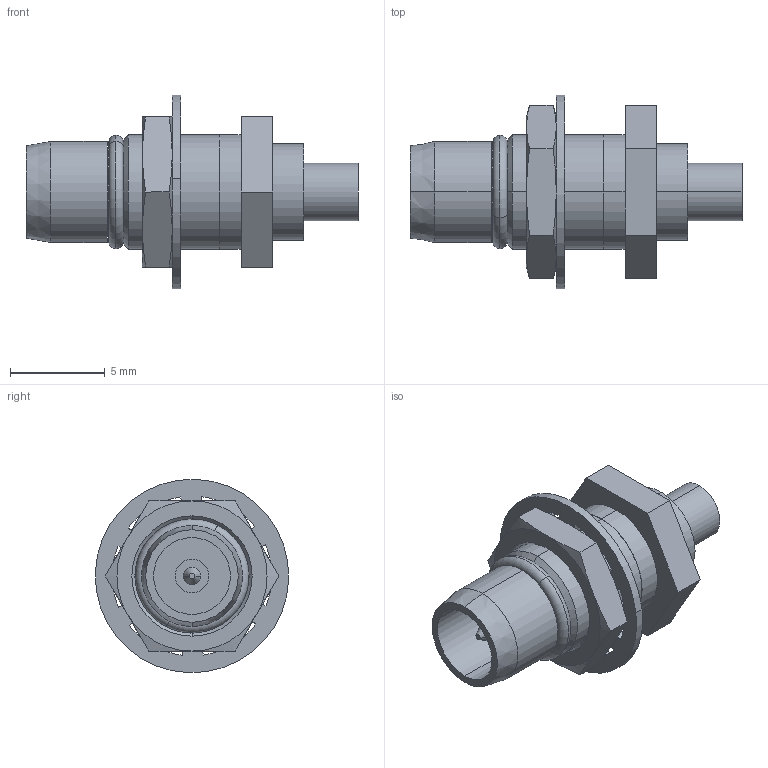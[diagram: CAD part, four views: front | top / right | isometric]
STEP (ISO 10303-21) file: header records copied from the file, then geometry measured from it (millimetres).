
FILE_DESCRIPTION (( 'STEP AP214' ), '1' );
FILE_NAME ('1708-6003.STEP', '2017-05-12T15:46:19', ( '' ), ( '' ), 'SwSTEP 2.0', 'SolidWorks 2016', '' );
FILE_SCHEMA (( 'AUTOMOTIVE_DESIGN' ));
Length unit declared in the file: inch
Products named in the file (1): 1708-6003
Bounding box: 17.53 x 10.21 x 10.21 mm (x, y, z)
Volume: 424.3 mm3; surface area: 712.9 mm2
Topology: 2 solids, 2 shells, 128 faces, 356 edges, 220 vertices
Faces by surface type: plane 52, cylinder 48, cone 24, torus 4
Entity records: 5861 total; most frequent: CARTESIAN_POINT 777, DIRECTION 742, ORIENTED_EDGE 712, EDGE_CURVE 356, AXIS2_PLACEMENT_3D 281, VERTEX_POINT 220, VECTOR 180, LINE 180
